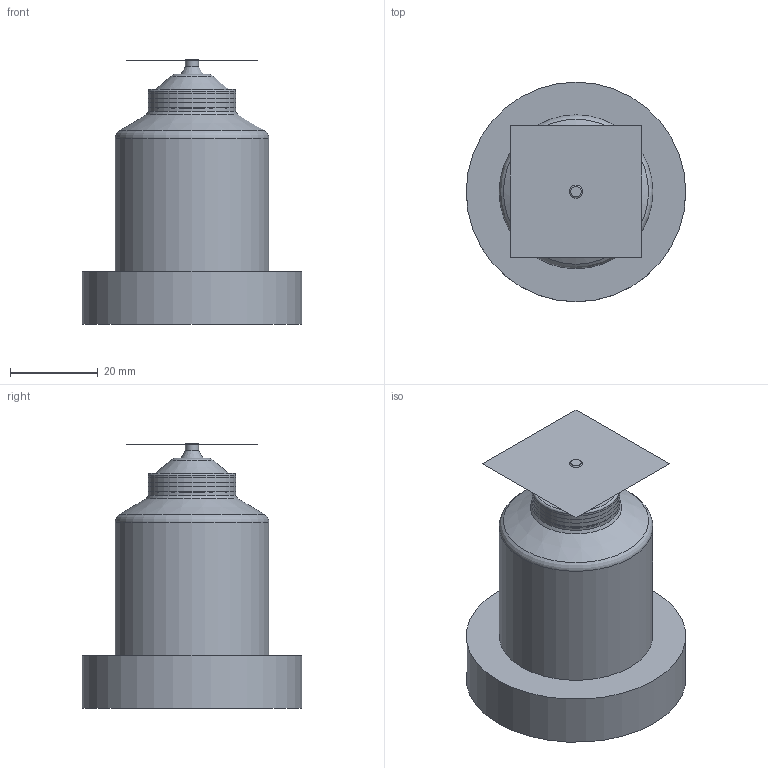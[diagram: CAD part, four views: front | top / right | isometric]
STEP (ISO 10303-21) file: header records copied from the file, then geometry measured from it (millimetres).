
FILE_DESCRIPTION (( 'STEP AP214' ), '1' );
FILE_NAME ('12E-06-060_VSW.STEP', '2020-11-17T06:42:47', ( '' ), ( '' ), 'SwSTEP 2.0', 'SolidWorks 2018', '' );
FILE_SCHEMA (( 'AUTOMOTIVE_DESIGN' ));
Length unit declared in the file: millimetre
Products named in the file (3): nozzle_12E-06-060-VSW; 12E-06-060_VSW; cutout_12E-06-060-VSW
Assembly tree (2 placements, depth 2):
  12E-06-060_VSW
    nozzle_12E-06-060-VSW
    cutout_12E-06-060-VSW
Bounding box: 50 x 50 x 60.3 mm (x, y, z)
Volume: 58825.2 mm3; surface area: 18838.8 mm2
Topology: 1 solids, 12 shells, 200 faces, 517 edges, 335 vertices
Faces by surface type: plane 93, cylinder 69, torus 28, cone 10
Full cylindrical faces by diameter (mm): 2 x2, 3 x2, 6 x2, 19.5 x1, 20 x3, 21 x1, 24 x1, 25 x1, 28 x1, 31 x1, 35 x1, 50 x1
Entity records: 6467 total; most frequent: CARTESIAN_POINT 1598, DIRECTION 1024, ORIENTED_EDGE 934, EDGE_CURVE 469, AXIS2_PLACEMENT_3D 392, VERTEX_POINT 324, EDGE_LOOP 248, VECTOR 240
